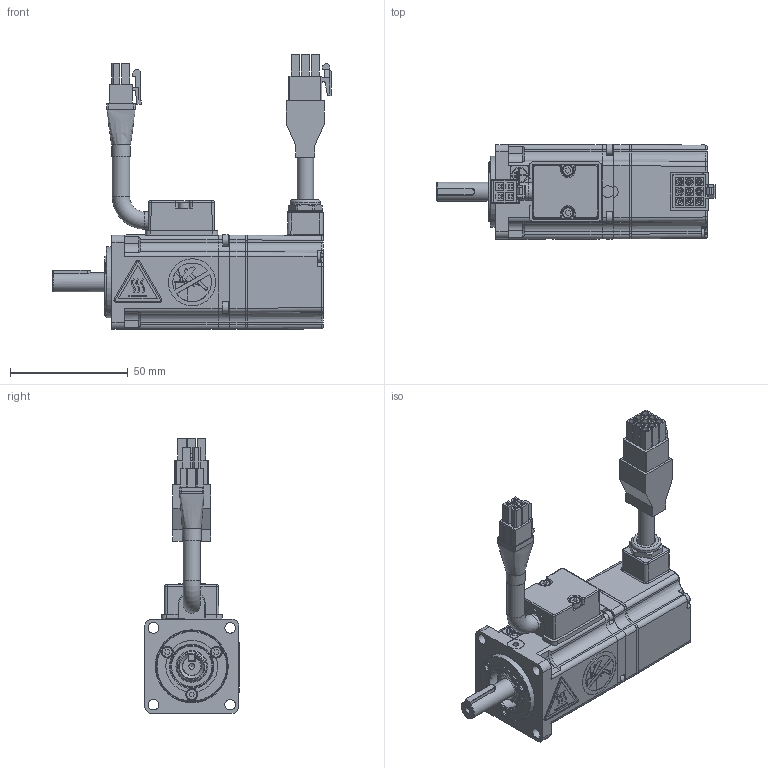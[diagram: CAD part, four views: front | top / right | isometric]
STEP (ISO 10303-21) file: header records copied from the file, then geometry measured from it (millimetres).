
FILE_DESCRIPTION( ( 'Unknown' ), '1' );
FILE_NAME( 'U:/05_Progetto TCE/010-TCE motor drawings/TCE40/Vuoti/TCE40 1A XX 3 A1 0 D0.stp', 'Unknown', ( 'Unknown' ), ( 'Unknown' ), 'PSStep 17.0.49', 'Unknown', ' ' );
FILE_SCHEMA( ( 'AUTOMOTIVE_DESIGN { 1 0 10303 214 1 1 1 1 }' ) );
Length unit declared in the file: millimetre
Products named in the file (44): 003108015151_curva; 003303000375; 005453000452_D7,4; 007102000222; 001107000616; 003303000025; 003711000103; 005603001004; cavo cablato x campana TCE - SICK; U5190001_vuoto; 003120002500; 001799000503; 005911000598; Assem1; 005123000992; 005119000350; 005911000185; 005911003639; 005123000910; 003103001500; 003155000300; 003251022000; 005204000002; 005113000108; 005204000004; 005204000001; 005007000082; 005008000104-oa0; 005008000104-oa1; 005008000134-oa2; 005008000134-oa3; 005008000134-oa4; 005009002005; 003155000305; 003303000377; 003911000274; 003003050000
Assembly tree (53 placements, depth 4):
  Assem1
    005123000992
    005123000992
    005119000350
    005119000350
    005911000185  x7
    005911003639  x3
    005123000910
    005123000910
    003103001500
    003155000300
    003251022000
    005204000002
    005113000108
    005204000004
    005204000001
    005007000082
    005008000104-oa0
    005008000104-oa1
    005008000134-oa2
    005008000134-oa3
    005008000134-oa4
    005009002005
    003155000305
    003303000377
    003911000274  x2
    003003050000
    007102000222
      001107000616
      003303000025
      003711000103
      005603001004
      cavo cablato x campana TCE - SICK
      cavo cablato x campana TCE - SICK
    U5190001_vuoto
      003120002500
      001799000503
      005911000598  x2
      003108015151_curva
        003303000375
        005453000452_D7,4
        003108015151_curva
        003108015151_curva
        003108015151_curva
Bounding box: 117.9 x 40.4 x 116.8 mm (x, y, z)
Volume: 71080.9 mm3; surface area: 75249 mm2
Topology: 50 solids, 50 shells, 2000 faces, 5060 edges, 3272 vertices
Faces by surface type: plane 1258, cylinder 433, cone 101, torus 87, bspline 64, extrusion 37, sphere 20
Full cylindrical faces by diameter (mm): 1 x1, 2.013 x22, 2.459 x11, 2.5 x16, 2.6 x9, 2.7 x16, 2.8 x2, 4.2 x2, 4.5 x4, 4.7 x12, 5 x6, 5.99 x1, 6 x3, 6.1 x1, 6.5 x1, 6.8 x1, 7 x3, 7.1 x1, 7.2 x1, 7.25 x1, 7.4 x2, 7.41 x1, 7.99 x1, 8 x3, 8.01 x1, 10 x1, 10.16 x2, 10.3 x2, 10.647 x1, 11 x1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
Entity records: 74495 total; most frequent: CARTESIAN_POINT 16800, DIRECTION 8717, ORIENTED_EDGE 8598, EDGE_CURVE 4299, VECTOR 3001, VERTEX_POINT 2970, LINE 2964, AXIS2_PLACEMENT_3D 2858
